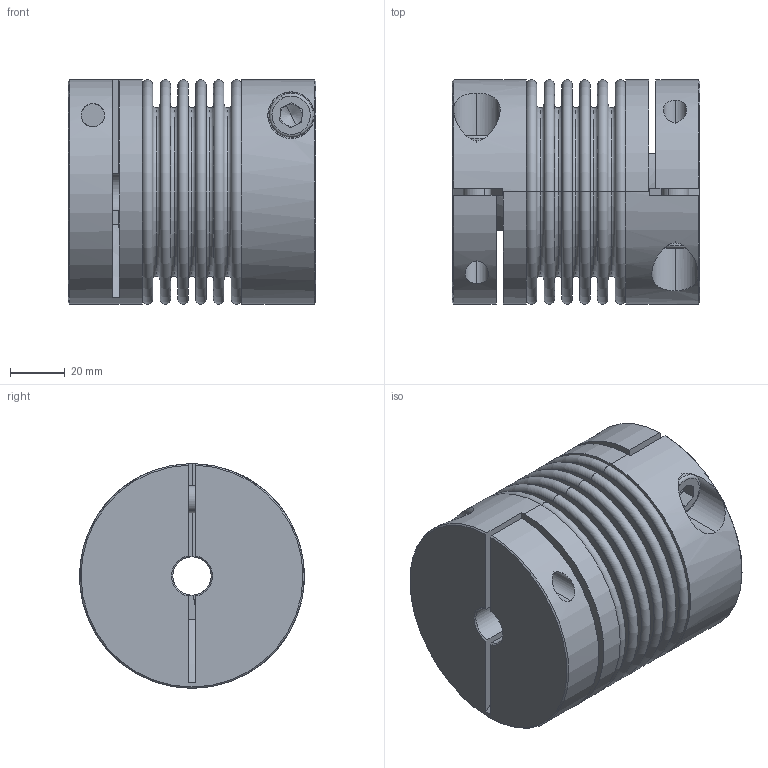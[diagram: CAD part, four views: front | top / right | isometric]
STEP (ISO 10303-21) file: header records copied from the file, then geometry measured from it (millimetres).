
FILE_DESCRIPTION (( 'STEP AP214' ), '1' );
FILE_NAME ('KB4C-80-89.STEP', '2011-01-19T17:38:25', ( '' ), ( 'KAPCAD' ), 'SwSTEP 2.0', 'SolidWorks 2002296', '' );
FILE_SCHEMA (( 'AUTOMOTIVE_DESIGN' ));
Length unit declared in the file: millimetre
Products named in the file (4): KB4C-80-89; Socket Head Cap Screw_DIN_DIN 912 M10 x 30 --- 30N; BL80-150_Standard; KN80-150C_Standard
Assembly tree (5 placements, depth 2):
  KB4C-80-89
    Socket Head Cap Screw_DIN_DIN 912 M10 x 30 --- 30N  x2
    BL80-150_Standard
    KN80-150C_Standard  x2
Bounding box: 90.35 x 82 x 82 mm (x, y, z)
Volume: 274274.7 mm3; surface area: 123671.6 mm2
Topology: 5 solids, 5 shells, 210 faces, 476 edges, 298 vertices
Faces by surface type: plane 80, torus 72, cylinder 42, cone 16
Entity records: 4600 total; most frequent: DIRECTION 891, CARTESIAN_POINT 886, ORIENTED_EDGE 664, AXIS2_PLACEMENT_3D 408, EDGE_CURVE 332, CIRCLE 246, VERTEX_POINT 209, EDGE_LOOP 187
